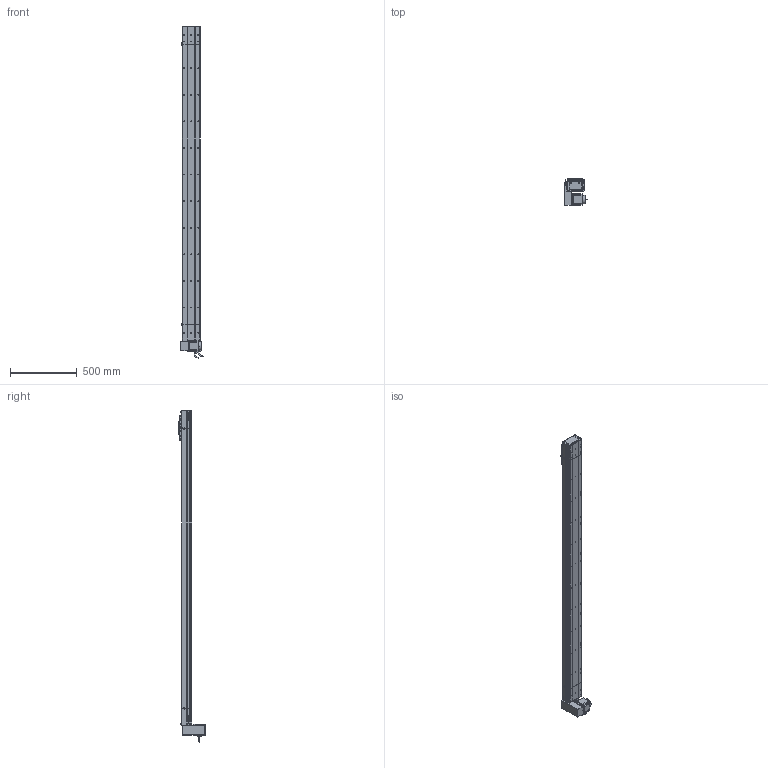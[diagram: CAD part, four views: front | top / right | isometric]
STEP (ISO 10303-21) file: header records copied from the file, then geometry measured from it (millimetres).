
FILE_DESCRIPTION (( 'STEP AP214' ), '1' );
FILE_NAME ('D14 CBH S2100 RU.STEP', '2010-06-30T07:10:40', ( 'Conseil Régional Haute-Normandie' ), ( 'Conseil Régional Haute-Normandie' ), 'SwSTEP 2.0', 'SolidWorks 2010', '' );
FILE_SCHEMA (( 'AUTOMOTIVE_DESIGN' ));
Length unit declared in the file: millimetre
Products named in the file (28): Support moteur Head D14 CBH; Conecteur_Default; Conecteur2_Default; codeur GMB 90 70 310; corps GMB 90 70 310; avant GMB 90 70 310; GMB 90 70 310; corps CBH S2100; Course CBH S2100; D14 CBH S2100 RU; corps tail  CBH d14 A; Tail CBH D14 A; couvercle CBH S2100; chariot D14; couvercle tail CBH D14; plaque de bout tail CBH d14; vis CHC M5; chariot supérieur D14; charriot inférieur D14; corps Head D14 CBH; Head D14 CBH; Head D14 CBH RU; couvercle Head D14 CBH; vis CHC M7; plaque de bout Head D14 CBH; plaque fermeture Head D14 CBH; Vis CHC M8; plaque de maintient CBH D14
Assembly tree (51 placements, depth 4):
  D14 CBH S2100 RU
    Head D14 CBH RU
      Head D14 CBH
        corps Head D14 CBH
        Vis CHC M8  x2
        couvercle Head D14 CBH
        vis CHC M7  x4
        plaque de bout Head D14 CBH
        plaque de maintient CBH D14
      Support moteur Head D14 CBH
      GMB 90 70 310
        codeur GMB 90 70 310
        Conecteur2_Default
        avant GMB 90 70 310
        Conecteur_Default
        corps GMB 90 70 310
      plaque fermeture Head D14 CBH  x3
    chariot D14
      vis CHC M5  x4
      vis CHC M7  x8
      chariot supérieur D14
      charriot inférieur D14
    Tail CBH D14 A
      vis CHC M7  x4
      Vis CHC M8  x2
      corps tail  CBH d14 A
      couvercle tail CBH D14
      plaque de maintient CBH D14
      plaque de bout tail CBH d14
    Course CBH S2100
      corps CBH S2100
      couvercle CBH S2100
Bounding box: 171.5 x 195.75 x 2495.95 mm (x, y, z)
Volume: 7100595.4 mm3; surface area: 2371819.2 mm2
Topology: 51 solids, 51 shells, 2498 faces, 6470 edges, 4250 vertices
Faces by surface type: plane 1371, bspline 538, cylinder 476, torus 61, cone 48, sphere 4
Entity records: 110641 total; most frequent: CARTESIAN_POINT 58396, ORIENTED_EDGE 11236, DIRECTION 8567, EDGE_CURVE 5618, VERTEX_POINT 3714, VECTOR 3709, LINE 3709, AXIS2_PLACEMENT_3D 2429
